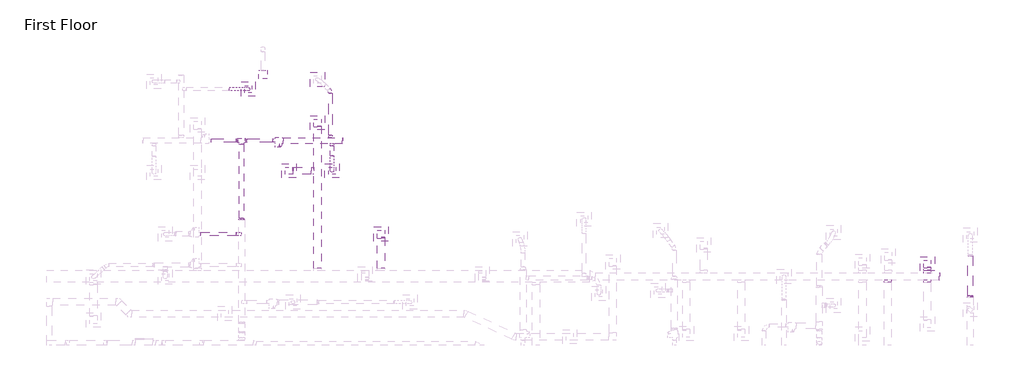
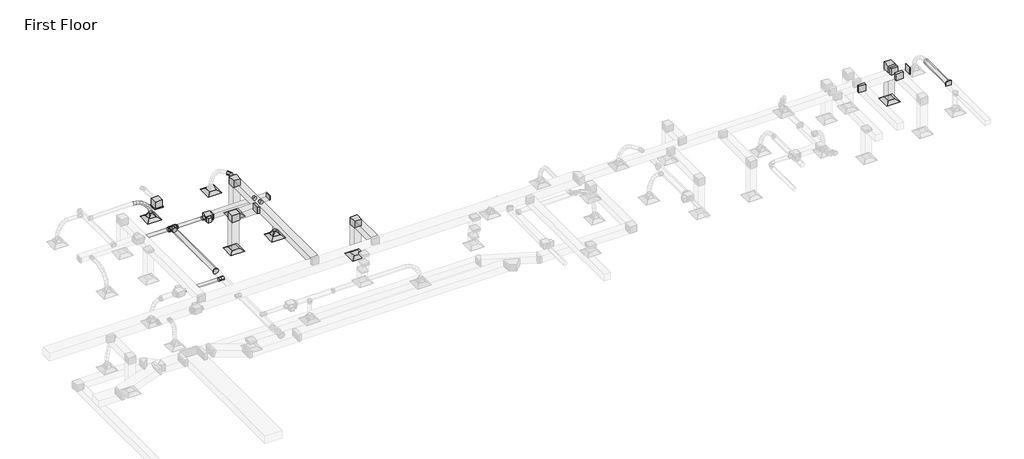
# One storey, part 58 of 61: 21 duct fittings, 18 duct segments, 7 air terminals, 2 proxies.
"""IFC4 building model written with IfcOpenShell, lengths in millimetres."""

from ifc_helpers import new_model, si_unit, point, frame, frame_2d, origin, place, context, project, spatial, polyline, circle_curve, ellipse_curve, trimmed, segment, composite_curve, outline, extrude, transform, mapped, element, save
from ifc_brep_helpers import plane_surface, cylinder_surface, advanced_brep
from components import m_exhaust_grill_er_600_x_600_face_300_x_300_connection_ff221211, proxy_47_84_lps_344db5a5, m_vav_unit_single_duct_150_mm_ffdab17b, m_rectangular_elbow_mitered_standard_8eee5933, m_rectangular_endcap_standard_ecd4e432, m_rectangular_endcap_standard_7b60dd9d, m_rectangular_takeoff_standard_c00386d1, m_rectangular_takeoff_standard_b44bfa45, m_rectangular_to_round_transition_angle_45_degree_8f201c83, m_rectangular_to_round_transition_angle_45_degree_9bcfcd89, m_round_elbow_1_5_d_fa134dda, m_round_takeoff_standard_d02f3bf7, m_round_takeoff_standard_2721f8a4, m_round_takeoff_standard_cf312e37, m_round_tee_standard_d0ec91cd, m_round_transition_angle_45_degree_6d7b59ce, m_round_transition_angle_45_degree_f1400fe6

model = new_model("IFC4")

# Units and contexts
model_context = context("Model", 3, world=origin())
ifc_project = project(units=[si_unit("LENGTHUNIT", "METRE", prefix="MILLI")], contexts=[model_context])

# Site, building, storey
site = spatial("IfcSite", under=ifc_project)
building = spatial("IfcBuilding", under=site)
storey = spatial("IfcBuildingStorey", under=building, Name="First Floor", Elevation=0.0)

# Air terminals
placement = place(None, origin())
m_exhaust_grill_er_600_x_600_face_300_x_300_connection_shape = m_exhaust_grill_er_600_x_600_face_300_x_300_connection_ff221211(model_context)
element("IfcAirTerminal", 1, ObjectType="M_Return Register : RR-600 x 600 Face 300 x 300 Connection", at=placement, inside=storey, context=model_context, shape_type="MappedRepresentation", body=[
    mapped(m_exhaust_grill_er_600_x_600_face_300_x_300_connection_shape, transform((-27752.9739655, 53630.299749, 2680.0), x_axis=(1.0, 0.0, 0.0), y_axis=(0.0, 1.0, 0.0), z_axis=(0.0, 0.0, 1.0))),
])
element("IfcAirTerminal", 2, ObjectType="M_Return Register : RR-600 x 600 Face 300 x 300 Connection", at=placement, inside=storey, context=model_context, shape_type="MappedRepresentation", body=[
    mapped(m_exhaust_grill_er_600_x_600_face_300_x_300_connection_shape, transform((-28945.9396654, 51626.5806608, 2680.0), x_axis=(1.0, 0.0, 0.0), y_axis=(0.0, 1.0, 0.0), z_axis=(0.0, 0.0, 1.0))),
])
element("IfcAirTerminal", 3, ObjectType="M_Return Register : RR-600 x 600 Face 300 x 300 Connection", at=placement, inside=storey, context=model_context, shape_type="MappedRepresentation", body=[
    mapped(m_exhaust_grill_er_600_x_600_face_300_x_300_connection_shape, transform((-2290.8234501, 47743.4589979, 2680.0), x_axis=(1.0, 0.0, 0.0), y_axis=(0.0, 1.0, 0.0), z_axis=(0.0, 0.0, 1.0))),
])
element("IfcAirTerminal", 4, ObjectType="M_Return Register : RR-600 x 600 Face 300 x 300 Connection", at=placement, inside=storey, context=model_context, shape_type="MappedRepresentation", body=[
    mapped(m_exhaust_grill_er_600_x_600_face_300_x_300_connection_shape, transform((-25098.324941, 48990.9394014, 2680.0), x_axis=(1.0, 0.0, 0.0), y_axis=(0.0, 1.0, 0.0), z_axis=(0.0, 0.0, 1.0))),
])
element("IfcAirTerminal", 5, ObjectType="M_Supply Diffuser : SD-600 x 600 Face 300 x 300 Connection", at=placement, inside=storey, context=model_context, shape_type="MappedRepresentation", body=[
    mapped(m_exhaust_grill_er_600_x_600_face_300_x_300_connection_shape, transform((-30642.6979857, 55029.321854, 2680.0), x_axis=(1.0, 0.0, 0.0), y_axis=(0.0, 1.0, 0.0), z_axis=(0.0, 0.0, 1.0))),
])
element("IfcAirTerminal", 6, ObjectType="M_Supply Diffuser : SD-600 x 600 Face 300 x 300 Connection", at=placement, inside=storey, context=model_context, shape_type="MappedRepresentation", body=[
    mapped(m_exhaust_grill_er_600_x_600_face_300_x_300_connection_shape, transform((-27752.9739655, 55437.1215859, 2680.0), x_axis=(1.0, 0.0, 0.0), y_axis=(0.0, 1.0, 0.0), z_axis=(0.0, 0.0, 1.0))),
])
element("IfcAirTerminal", 7, ObjectType="M_Supply Diffuser : SD-600 x 600 Face 300 x 300 Connection", at=placement, inside=storey, context=model_context, shape_type="MappedRepresentation", body=[
    mapped(m_exhaust_grill_er_600_x_600_face_300_x_300_connection_shape, transform((-27139.1178286, 51626.5806608, 2680.0), x_axis=(1.0, 0.0, 0.0), y_axis=(0.0, 1.0, 0.0), z_axis=(0.0, 0.0, 1.0))),
])

# Proxies
proxy_47_84_lps_shape = proxy_47_84_lps_344db5a5(model_context)
element("IfcBuildingElementProxy", 8, Name="M_Exhaust Unit with Cabinet - Round Connection - Ceiling Mounted : 47-84 LPS", ObjectType="M_Exhaust Unit with Cabinet - Round Connection - Ceiling Mounted : 47-84 LPS", at=placement, inside=storey, context=model_context, shape_type="MappedRepresentation", body=[
    mapped(proxy_47_84_lps_shape, transform((-30028.7764497, 55642.2656702, 2680.0), x_axis=(-1.0, 0.0, 0.0), y_axis=(0.0, -1.0, 0.0), z_axis=(0.0, 0.0, 1.0))),
])
m_vav_unit_single_duct_150_mm_shape = m_vav_unit_single_duct_150_mm_ffdab17b(model_context)
element("IfcBuildingElementProxy", 9, Name="M_VAV Unit - Single Duct : 150 mm", ObjectType="M_VAV Unit - Single Duct : 150 mm", at=placement, inside=storey, context=model_context, shape_type="MappedRepresentation", body=[
    mapped(m_vav_unit_single_duct_150_mm_shape, transform((-29517.7184361, 52885.394047, 3500.05), x_axis=(1.0000000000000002, 0.0, 0.0), y_axis=(0.0, 1.0000000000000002, 0.0), z_axis=(0.0, 0.0, 1.0))),
])

# Duct fittings
m_rectangular_elbow_mitered_standard_shape = m_rectangular_elbow_mitered_standard_8eee5933(model_context)
element("IfcDuctFitting", 10, ObjectType="M_Rectangular Elbow - Mitered : Standard", at=placement, inside=storey, context=model_context, shape_type="MappedRepresentation", body=[
    mapped(m_rectangular_elbow_mitered_standard_shape, transform((-28945.9396654, 51626.5806608, 4259.5), x_axis=(0.0, 0.0, 1.0), y_axis=(1.0, 0.0, 0.0), z_axis=(0.0, 1.0, 0.0))),
])
element("IfcDuctFitting", 11, ObjectType="M_Rectangular Elbow - Mitered : Standard", at=placement, inside=storey, context=model_context, shape_type="MappedRepresentation", body=[
    mapped(m_rectangular_elbow_mitered_standard_shape, transform((-2290.8234501, 47743.4589979, 4259.5), x_axis=(0.0, 0.0, 1.0), y_axis=(0.0, -1.0, 0.0), z_axis=(1.0, 0.0, 0.0))),
])
element("IfcDuctFitting", 12, ObjectType="M_Rectangular Elbow - Mitered : Standard", at=placement, inside=storey, context=model_context, shape_type="MappedRepresentation", body=[
    mapped(m_rectangular_elbow_mitered_standard_shape, transform((-27752.9739655, 53630.299749, 4259.5), x_axis=(0.0, 0.0, 1.0), y_axis=(0.0, -1.0, 0.0), z_axis=(1.0, 0.0, 0.0))),
])
element("IfcDuctFitting", 13, ObjectType="M_Rectangular Elbow - Mitered : Standard", at=placement, inside=storey, context=model_context, shape_type="MappedRepresentation", body=[
    mapped(m_rectangular_elbow_mitered_standard_shape, transform((-25098.324941, 48990.9394014, 4259.5), x_axis=(0.0, 0.0, 1.0), y_axis=(0.0, -1.0, 0.0), z_axis=(1.0, 0.0, 0.0))),
])
m_rectangular_endcap_standard_shape = m_rectangular_endcap_standard_ecd4e432(model_context)
element("IfcDuctFitting", 14, ObjectType="M_Rectangular Endcap : Standard", at=placement, inside=storey, context=model_context, shape_type="MappedRepresentation", body=[
    mapped(m_rectangular_endcap_standard_shape, transform((-26714.9184361, 52885.394047, 3619.1), x_axis=(1.0, 0.0, 0.0), y_axis=(0.0, 1.0, 0.0), z_axis=(0.0, 0.0, 1.0))),
])
m_rectangular_endcap_standard_2_shape = m_rectangular_endcap_standard_7b60dd9d(model_context)
element("IfcDuctFitting", 15, ObjectType="M_Rectangular Endcap : Standard", at=placement, inside=storey, context=model_context, shape_type="MappedRepresentation", body=[
    mapped(m_rectangular_endcap_standard_2_shape, transform((-1789.6648684, 47211.3321421, 4259.5), x_axis=(1.0, 0.0, 0.0), y_axis=(0.0, 1.0, 0.0), z_axis=(0.0, 0.0, 1.0))),
])
m_rectangular_takeoff_standard_shape = m_rectangular_takeoff_standard_c00386d1(model_context)
element("IfcDuctFitting", 16, ObjectType="M_Rectangular Takeoff : Standard", at=placement, inside=storey, context=model_context, shape_type="MappedRepresentation", body=[
    mapped(m_rectangular_takeoff_standard_shape, transform((-2290.8234501, 47361.3321421, 4259.5), x_axis=(0.0, 1.0, 0.0), y_axis=(1.0, 0.0, 0.0), z_axis=(0.0, 0.0, -1.0))),
])
m_rectangular_takeoff_standard_2_shape = m_rectangular_takeoff_standard_b44bfa45(model_context)
element("IfcDuctFitting", 17, ObjectType="M_Rectangular Takeoff : Standard", at=placement, inside=storey, context=model_context, shape_type="MappedRepresentation", body=[
    mapped(m_rectangular_takeoff_standard_2_shape, transform((-27902.9739655, 51626.5806608, 4259.5), x_axis=(-1.0, 0.0, 0.0), y_axis=(0.0, 1.0, 0.0), z_axis=(0.0, 0.0, -1.0))),
])
element("IfcDuctFitting", 18, ObjectType="M_Rectangular Takeoff : Standard", at=placement, inside=storey, context=model_context, shape_type="MappedRepresentation", body=[
    mapped(m_rectangular_takeoff_standard_2_shape, transform((-3939.6335034, 47061.3321421, 4259.5), x_axis=(0.0, -1.0, 0.0), y_axis=(-1.0, 0.0, 0.0), z_axis=(0.0, 0.0, -1.0))),
])
element("IfcDuctFitting", 19, ObjectType="M_Rectangular Takeoff : Standard", at=placement, inside=storey, context=model_context, shape_type="MappedRepresentation", body=[
    mapped(m_rectangular_takeoff_standard_2_shape, transform((-2290.8234501, 47061.3321421, 4259.5), x_axis=(0.0, -1.0, 0.0), y_axis=(1.0, 0.0, 0.0), z_axis=(0.0, 0.0, 1.0))),
])
m_rectangular_to_round_transition_angle_45_degree_shape = m_rectangular_to_round_transition_angle_45_degree_8f201c83(model_context)
element("IfcDuctFitting", 20, ObjectType="M_Rectangular to Round Transition - Angle : 45 Degree", at=placement, inside=storey, context=model_context, shape_type="MappedRepresentation", body=[
    mapped(m_rectangular_to_round_transition_angle_45_degree_shape, transform((-30642.6979857, 55029.321854, 2781.6), x_axis=(0.0, 0.0, 1.0), y_axis=(1.0, 0.0, 0.0), z_axis=(0.0, 1.0, 0.0))),
])
element("IfcDuctFitting", 21, ObjectType="M_Rectangular to Round Transition - Angle : 45 Degree", at=placement, inside=storey, context=model_context, shape_type="MappedRepresentation", body=[
    mapped(m_rectangular_to_round_transition_angle_45_degree_shape, transform((-27139.1178286, 51626.5806608, 2781.6), x_axis=(0.0, 0.0, 1.0), y_axis=(1.0, 0.0, 0.0), z_axis=(0.0, 1.0, 0.0))),
])
m_rectangular_to_round_transition_angle_45_degree_2_shape = m_rectangular_to_round_transition_angle_45_degree_9bcfcd89(model_context)
element("IfcDuctFitting", 22, ObjectType="M_Rectangular to Round Transition - Angle : 45 Degree", at=placement, inside=storey, context=model_context, shape_type="MappedRepresentation", body=[
    mapped(m_rectangular_to_round_transition_angle_45_degree_2_shape, transform((-500.5154255, 46346.4694717, 3669.1), x_axis=(0.0, 1.0, 0.0), y_axis=(-1.0, 0.0, 0.0), z_axis=(0.0, 0.0, 1.0))),
])
m_round_elbow_1_5_d_shape = m_round_elbow_1_5_d_fa134dda(model_context)
element("IfcDuctFitting", 23, ObjectType="M_Round Elbow : 1.5 D", at=placement, inside=storey, context=model_context, shape_type="MappedRepresentation", body=[
    mapped(m_round_elbow_1_5_d_shape, transform((-27210.6220598, 54954.321854, 3619.1), x_axis=(0.0, 1.0, 0.0), y_axis=(-1.0, 0.0, 0.0), z_axis=(0.0, 0.0, 1.0))),
])
m_round_takeoff_standard_shape = m_round_takeoff_standard_d02f3bf7(model_context)
element("IfcDuctFitting", 24, ObjectType="M_Round Takeoff : Standard", at=placement, inside=storey, context=model_context, shape_type="MappedRepresentation", body=[
    mapped(m_round_takeoff_standard_shape, transform((-27139.1178286, 52760.394047, 3619.1), x_axis=(0.0, -1.0, 0.0), y_axis=(-1.0, 0.0, 0.0), z_axis=(0.0, 0.0, -1.0))),
])
m_round_takeoff_standard_2_shape = m_round_takeoff_standard_2721f8a4(model_context)
element("IfcDuctFitting", 25, ObjectType="M_Round Takeoff : Standard", at=placement, inside=storey, context=model_context, shape_type="MappedRepresentation", body=[
    mapped(m_round_takeoff_standard_2_shape, transform((-27210.6220598, 53010.394047, 3619.1), x_axis=(0.0, 1.0, 0.0), y_axis=(1.0, 0.0, 0.0), z_axis=(0.0, 0.0, -1.0))),
])
m_round_takeoff_standard_3_shape = m_round_takeoff_standard_cf312e37(model_context)
element("IfcDuctFitting", 26, ObjectType="M_Round Takeoff : Standard", at=placement, inside=storey, context=model_context, shape_type="MappedRepresentation", body=[
    mapped(m_round_takeoff_standard_3_shape, transform((-31035.2411773, 48990.0894014, 3659.6016929), x_axis=(-0.999999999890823, 0.0, 1.477681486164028e-05), y_axis=(0.0, 1.0000000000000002, 0.0), z_axis=(-1.477681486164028e-05, 0.0, -0.999999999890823))),
])
m_round_tee_standard_shape = m_round_tee_standard_d0ec91cd(model_context)
element("IfcDuctFitting", 27, ObjectType="M_Round Tee : Standard", at=placement, inside=storey, context=model_context, shape_type="MappedRepresentation", body=[
    mapped(m_round_tee_standard_shape, transform((-30920.6775238, 52886.244047, 3609.6), x_axis=(0.9999999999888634, 0.0, -4.719453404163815e-06), y_axis=(0.0, 1.0, 0.0), z_axis=(4.719453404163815e-06, 0.0, 0.9999999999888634))),
])
m_round_transition_angle_45_degree_shape = m_round_transition_angle_45_degree_6d7b59ce(model_context)
element("IfcDuctFitting", 28, ObjectType="M_Round Transition - Angle : 45 Degree", at=placement, inside=storey, context=model_context, shape_type="MappedRepresentation", body=[
    mapped(m_round_transition_angle_45_degree_shape, transform((-30770.6775238, 52886.244047, 3609.5992921), x_axis=(0.9999999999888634, 0.0, -4.719453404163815e-06), y_axis=(0.0, 1.0, 0.0), z_axis=(4.719453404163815e-06, 0.0, 0.9999999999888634))),
])
element("IfcDuctFitting", 29, ObjectType="M_Round Transition - Angle : 45 Degree", at=placement, inside=storey, context=model_context, shape_type="MappedRepresentation", body=[
    mapped(m_round_transition_angle_45_degree_shape, transform((-31070.6775238, 52886.244047, 3609.6007079), x_axis=(-0.9999999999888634, 0.0, 4.719453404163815e-06), y_axis=(0.0, -1.0, 0.0), z_axis=(4.719453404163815e-06, 0.0, 0.9999999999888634))),
])
m_round_transition_angle_45_degree_2_shape = m_round_transition_angle_45_degree_f1400fe6(model_context)
element("IfcDuctFitting", 30, ObjectType="M_Round Transition - Angle : 45 Degree", at=placement, inside=storey, context=model_context, shape_type="MappedRepresentation", body=[
    mapped(m_round_transition_angle_45_degree_2_shape, transform((-30920.6775238, 49636.244047, 3609.6), x_axis=(0.0, -1.0, 0.0), y_axis=(1.0, 0.0, 0.0), z_axis=(0.0, 0.0, 1.0))),
])

# Duct segments
element("IfcDuctSegment", 31, ObjectType="Flex - Round", at=placement, inside=storey, context=model_context, shape_type="AdvancedBrep", body=[
    advanced_brep(
    [(-31432.0242908, 55104.321854, 3619.1), (-31440.0196569, 55029.321854, 3544.5273903), (-31432.0242908, 54954.321854, 3619.1), (-31424.0289247, 55029.321854, 3693.6726097), (-31299.8575118, 55104.321854, 3604.9296258), (-31314.6592539, 55029.321854, 3531.0867675), (-31299.8575118, 54954.321854, 3604.9296258), (-31285.0557698, 55029.321854, 3678.7724841), (-30642.6979857, 55104.321854, 2962.6660172), (-30568.6079963, 55029.321854, 2974.3139125), (-30642.6979857, 54954.321854, 2962.6660172), (-30716.7879752, 55029.321854, 2951.0181219), (-31164.3240999, 55104.321854, 3564.6548421), (-31191.282842, 55029.321854, 3494.4245288), (-31164.3240999, 54954.321854, 3564.6548421), (-31137.3653578, 55029.321854, 3634.8851554), (-31031.8932274, 55104.321854, 3501.6301574), (-31069.0990875, 55029.321854, 3436.276512), (-31031.8932274, 54954.321854, 3501.6301574), (-30994.6873673, 55029.321854, 3566.9838029), (-30909.0340665, 55104.321854, 3419.2100803), (-30955.6163232, 55029.321854, 3360.1465912), (-30909.0340665, 54954.321854, 3419.2100803), (-30862.4518098, 55029.321854, 3478.2735694), (-30802.2157896, 55104.321854, 3320.7491192), (-30857.9450685, 55029.321854, 3270.1170018), (-30802.2157896, 54954.321854, 3320.7491192), (-30746.4865108, 55029.321854, 3371.3812367), (-30717.907569, 55104.321854, 3209.6017827), (-30782.6319679, 55029.321854, 3170.8283385), (-30717.907569, 54954.321854, 3209.6017827), (-30653.1831701, 55029.321854, 3248.3752269), (-30662.5785769, 55104.321854, 3089.1225792), (-30735.0593291, 55029.321854, 3067.2386394), (-30662.5785769, 54954.321854, 3089.1225792), (-30590.0978248, 55029.321854, 3111.0065189)],
    [
        (0, 1, circle_curve(frame((-31432.0242908, 55029.321854, 3619.1), z_axis=(-0.9943014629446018, 0.0, 0.10660488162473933), x_axis=(0.0, 1.0, 0.0)), 75.0)),
        (1, 2, circle_curve(frame((-31432.0242908, 55029.321854, 3619.1), z_axis=(-0.9943014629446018, 0.0, 0.10660488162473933), x_axis=(0.0, 1.0, 0.0)), 75.0)),
        (2, 3, circle_curve(frame((-31432.0242908, 55029.321854, 3619.1), z_axis=(-0.9943014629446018, 0.0, 0.10660488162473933), x_axis=(0.0, 1.0, 0.0)), 75.0)),
        (3, 0, circle_curve(frame((-31432.0242908, 55029.321854, 3619.1), z_axis=(-0.9943014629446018, 0.0, 0.10660488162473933), x_axis=(0.0, 1.0, 0.0)), 75.0)),
        (0, 4),
        (4, 5, ellipse_curve(frame((-31299.8575118, 55029.321854, 3604.9296258), z_axis=(-0.980495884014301, 0.0, 0.19653961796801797), x_axis=(-0.19653961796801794, 0.0, -0.9804958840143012)), 75.3117474, 75.0)),
        (5, 1),
        (5, 6, ellipse_curve(frame((-31299.8575118, 55029.321854, 3604.9296258), z_axis=(-0.980495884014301, 0.0, 0.19653961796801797), x_axis=(-0.19653961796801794, 0.0, -0.9804958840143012)), 75.3117474, 75.0)),
        (6, 2),
        (6, 7, ellipse_curve(frame((-31299.8575118, 55029.321854, 3604.9296258), z_axis=(-0.980495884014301, 0.0, 0.19653961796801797), x_axis=(-0.19653961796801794, 0.0, -0.9804958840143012)), 75.3117474, 75.0)),
        (7, 3),
        (7, 4, ellipse_curve(frame((-31299.8575118, 55029.321854, 3604.9296258), z_axis=(-0.980495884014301, 0.0, 0.19653961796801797), x_axis=(-0.19653961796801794, 0.0, -0.9804958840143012)), 75.3117474, 75.0)),
        (8, 9, circle_curve(frame((-30642.6979857, 55029.321854, 2962.6660172), z_axis=(0.1553052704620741, 0.0, -0.9878665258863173), x_axis=(0.0, 1.0, 0.0)), 75.0)),
        (9, 10, circle_curve(frame((-30642.6979857, 55029.321854, 2962.6660172), z_axis=(0.1553052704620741, 0.0, -0.9878665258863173), x_axis=(0.0, 1.0, 0.0)), 75.0)),
        (10, 11, circle_curve(frame((-30642.6979857, 55029.321854, 2962.6660172), z_axis=(0.1553052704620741, 0.0, -0.9878665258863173), x_axis=(0.0, 1.0, 0.0)), 75.0)),
        (11, 8, circle_curve(frame((-30642.6979857, 55029.321854, 2962.6660172), z_axis=(0.1553052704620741, 0.0, -0.9878665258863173), x_axis=(0.0, 1.0, 0.0)), 75.0)),
        (4, 12),
        (12, 13, ellipse_curve(frame((-31164.3240999, 55029.321854, 3564.6548421), z_axis=(-0.9335810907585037, 0.0, 0.35836621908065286), x_axis=(-0.35836621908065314, 0.0, -0.9335810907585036)), 75.226795, 75.0)),
        (13, 5),
        (13, 14, ellipse_curve(frame((-31164.3240999, 55029.321854, 3564.6548421), z_axis=(-0.9335810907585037, 0.0, 0.35836621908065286), x_axis=(-0.35836621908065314, 0.0, -0.9335810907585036)), 75.226795, 75.0)),
        (14, 6),
        (14, 15, ellipse_curve(frame((-31164.3240999, 55029.321854, 3564.6548421), z_axis=(-0.9335810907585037, 0.0, 0.35836621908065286), x_axis=(-0.35836621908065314, 0.0, -0.9335810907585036)), 75.226795, 75.0)),
        (15, 7),
        (15, 12, ellipse_curve(frame((-31164.3240999, 55029.321854, 3564.6548421), z_axis=(-0.9335810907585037, 0.0, 0.35836621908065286), x_axis=(-0.35836621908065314, 0.0, -0.9335810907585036)), 75.226795, 75.0)),
        (12, 16),
        (16, 17, ellipse_curve(frame((-31031.8932274, 55029.321854, 3501.6301574), z_axis=(-0.8690386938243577, 0.0, 0.49474412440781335), x_axis=(-0.49474412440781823, 0.0, -0.8690386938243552)), 75.2022274, 75.0)),
        (17, 13),
        (17, 18, ellipse_curve(frame((-31031.8932274, 55029.321854, 3501.6301574), z_axis=(-0.8690386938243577, 0.0, 0.49474412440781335), x_axis=(-0.49474412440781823, 0.0, -0.8690386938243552)), 75.2022274, 75.0)),
        (18, 14),
        (18, 19, ellipse_curve(frame((-31031.8932274, 55029.321854, 3501.6301574), z_axis=(-0.8690386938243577, 0.0, 0.49474412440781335), x_axis=(-0.49474412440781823, 0.0, -0.8690386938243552)), 75.2022274, 75.0)),
        (19, 15),
        (19, 16, ellipse_curve(frame((-31031.8932274, 55029.321854, 3501.6301574), z_axis=(-0.8690386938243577, 0.0, 0.49474412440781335), x_axis=(-0.49474412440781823, 0.0, -0.8690386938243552)), 75.2022274, 75.0)),
        (16, 20),
        (20, 21, ellipse_curve(frame((-30909.0340665, 55029.321854, 3419.2100803), z_axis=(-0.7851853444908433, 0.0, 0.6192608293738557), x_axis=(-0.6192608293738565, 0.0, -0.7851853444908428)), 75.222353, 75.0)),
        (21, 17),
        (21, 22, ellipse_curve(frame((-30909.0340665, 55029.321854, 3419.2100803), z_axis=(-0.7851853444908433, 0.0, 0.6192608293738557), x_axis=(-0.6192608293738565, 0.0, -0.7851853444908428)), 75.222353, 75.0)),
        (22, 18),
        (22, 23, ellipse_curve(frame((-30909.0340665, 55029.321854, 3419.2100803), z_axis=(-0.7851853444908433, 0.0, 0.6192608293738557), x_axis=(-0.6192608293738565, 0.0, -0.7851853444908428)), 75.222353, 75.0)),
        (23, 19),
        (23, 20, ellipse_curve(frame((-30909.0340665, 55029.321854, 3419.2100803), z_axis=(-0.7851853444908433, 0.0, 0.6192608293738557), x_axis=(-0.6192608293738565, 0.0, -0.7851853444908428)), 75.222353, 75.0)),
        (20, 24),
        (24, 25, ellipse_curve(frame((-30802.2157896, 55029.321854, 3320.7491192), z_axis=(-0.6724483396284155, 0.0, 0.7401440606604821), x_axis=(-0.7401440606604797, 0.0, -0.6724483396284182)), 75.2951781, 75.0)),
        (25, 21),
        (25, 26, ellipse_curve(frame((-30802.2157896, 55029.321854, 3320.7491192), z_axis=(-0.6724483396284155, 0.0, 0.7401440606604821), x_axis=(-0.7401440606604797, 0.0, -0.6724483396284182)), 75.2951781, 75.0)),
        (26, 22),
        (26, 27, ellipse_curve(frame((-30802.2157896, 55029.321854, 3320.7491192), z_axis=(-0.6724483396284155, 0.0, 0.7401440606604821), x_axis=(-0.7401440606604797, 0.0, -0.6724483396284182)), 75.2951781, 75.0)),
        (27, 23),
        (27, 24, ellipse_curve(frame((-30802.2157896, 55029.321854, 3320.7491192), z_axis=(-0.6724483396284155, 0.0, 0.7401440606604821), x_axis=(-0.7401440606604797, 0.0, -0.6724483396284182)), 75.2951781, 75.0)),
        (24, 28),
        (28, 29, ellipse_curve(frame((-30717.907569, 55029.321854, 3209.6017827), z_axis=(-0.5138992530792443, 0.0, 0.8578505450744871), x_axis=(-0.8578505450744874, 0.0, -0.5138992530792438)), 75.4495049, 75.0)),
        (29, 25),
        (29, 30, ellipse_curve(frame((-30717.907569, 55029.321854, 3209.6017827), z_axis=(-0.5138992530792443, 0.0, 0.8578505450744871), x_axis=(-0.8578505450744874, 0.0, -0.5138992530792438)), 75.4495049, 75.0)),
        (30, 26),
        (30, 31, ellipse_curve(frame((-30717.907569, 55029.321854, 3209.6017827), z_axis=(-0.5138992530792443, 0.0, 0.8578505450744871), x_axis=(-0.8578505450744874, 0.0, -0.5138992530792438)), 75.4495049, 75.0)),
        (31, 27),
        (31, 28, ellipse_curve(frame((-30717.907569, 55029.321854, 3209.6017827), z_axis=(-0.5138992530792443, 0.0, 0.8578505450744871), x_axis=(-0.8578505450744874, 0.0, -0.5138992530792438)), 75.4495049, 75.0)),
        (28, 32),
        (32, 33, ellipse_curve(frame((-30662.5785769, 55029.321854, 3089.1225792), z_axis=(-0.2890403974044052, 0.0, 0.9573169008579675), x_axis=(-0.9573169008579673, 0.0, -0.28904039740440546)), 75.7123917, 75.0)),
        (33, 29),
        (33, 34, ellipse_curve(frame((-30662.5785769, 55029.321854, 3089.1225792), z_axis=(-0.2890403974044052, 0.0, 0.9573169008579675), x_axis=(-0.9573169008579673, 0.0, -0.28904039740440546)), 75.7123917, 75.0)),
        (34, 30),
        (34, 35, ellipse_curve(frame((-30662.5785769, 55029.321854, 3089.1225792), z_axis=(-0.2890403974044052, 0.0, 0.9573169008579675), x_axis=(-0.9573169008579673, 0.0, -0.28904039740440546)), 75.7123917, 75.0)),
        (35, 31),
        (35, 32, ellipse_curve(frame((-30662.5785769, 55029.321854, 3089.1225792), z_axis=(-0.2890403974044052, 0.0, 0.9573169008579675), x_axis=(-0.9573169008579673, 0.0, -0.28904039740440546)), 75.7123917, 75.0)),
        (32, 8),
        (11, 33),
        (10, 34),
        (9, 35),
    ],
    [
        plane_surface(frame((-31432.0242908, 55104.321854, 3619.1), z_axis=(-0.9943014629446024, 0.0, 0.1066048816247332), x_axis=(0.1066048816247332, 0.0, 0.9943014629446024))),
        cylinder_surface(frame((-31432.0242908, 55029.321854, 3619.1), z_axis=(-0.9943014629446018, 0.0, 0.10660488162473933), x_axis=(0.0, 1.0, 0.0)), 75.0),
        plane_surface(frame((-30642.6979857, 55104.321854, 2962.6660172), z_axis=(0.1553052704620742, 0.0, -0.9878665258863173), x_axis=(0.9878665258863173, 0.0, 0.1553052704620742))),
        cylinder_surface(frame((-31299.8575118, 55029.321854, 3604.9296258), z_axis=(-0.9585729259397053, 0.0, 0.28484723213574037), x_axis=(0.0, 1.0, 0.0)), 75.0),
        cylinder_surface(frame((-31164.3240999, 55029.321854, 3564.6548421), z_axis=(-0.9029601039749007, 0.0, 0.4297243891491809), x_axis=(0.0, 1.0, 0.0)), 75.0),
        cylinder_surface(frame((-31031.8932274, 55029.321854, 3501.6301574), z_axis=(-0.8304433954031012, 0.0, 0.557103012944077), x_axis=(0.0, 1.0, 0.0)), 75.0),
        cylinder_surface(frame((-30909.0340665, 55029.321854, 3419.2100803), z_axis=(-0.7352853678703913, 0.0, 0.6777576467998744), x_axis=(0.0, 1.0, 0.0)), 75.0),
        cylinder_surface(frame((-30802.2157896, 55029.321854, 3320.7491192), z_axis=(-0.6043389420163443, 0.0, 0.7967273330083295), x_axis=(0.0, 1.0, 0.0)), 75.0),
        cylinder_surface(frame((-30717.907569, 55029.321854, 3209.6017827), z_axis=(-0.4173362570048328, 0.0, 0.9087521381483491), x_axis=(0.0, 1.0, 0.0)), 75.0),
        cylinder_surface(frame((-30662.5785769, 55029.321854, 3089.1225792), z_axis=(-0.1553052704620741, 0.0, 0.9878665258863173), x_axis=(0.0, 1.0, 0.0)), 75.0),
    ],
    [
        (0, [[1, 2, 3, 4]]),
        (1, [[-1, 5, 6, 7]]),
        (1, [[-2, -7, 8, 9]]),
        (1, [[-3, -9, 10, 11]]),
        (1, [[-4, -11, 12, -5]]),
        (2, [[13, 14, 15, 16]]),
        (3, [[-6, 17, 18, 19]]),
        (3, [[-8, -19, 20, 21]]),
        (3, [[-10, -21, 22, 23]]),
        (3, [[-12, -23, 24, -17]]),
        (4, [[-18, 25, 26, 27]]),
        (4, [[-20, -27, 28, 29]]),
        (4, [[-22, -29, 30, 31]]),
        (4, [[-24, -31, 32, -25]]),
        (5, [[-26, 33, 34, 35]]),
        (5, [[-28, -35, 36, 37]]),
        (5, [[-30, -37, 38, 39]]),
        (5, [[-32, -39, 40, -33]]),
        (6, [[-34, 41, 42, 43]]),
        (6, [[-36, -43, 44, 45]]),
        (6, [[-38, -45, 46, 47]]),
        (6, [[-40, -47, 48, -41]]),
        (7, [[-42, 49, 50, 51]]),
        (7, [[-44, -51, 52, 53]]),
        (7, [[-46, -53, 54, 55]]),
        (7, [[-48, -55, 56, -49]]),
        (8, [[-50, 57, 58, 59]]),
        (8, [[-52, -59, 60, 61]]),
        (8, [[-54, -61, 62, 63]]),
        (8, [[-56, -63, 64, -57]]),
        (9, [[-58, 65, -16, 66]]),
        (9, [[-60, -66, -15, 67]]),
        (9, [[-62, -67, -14, 68]]),
        (9, [[-64, -68, -13, -65]]),
    ],
),
])
element("IfcDuctSegment", 32, ObjectType="Flex - Round", at=placement, inside=storey, context=model_context, shape_type="AdvancedBrep", body=[
    advanced_brep(
    [(-27064.1178286, 52247.094047, 3619.1), (-27139.1178286, 52258.883239, 3545.0323623), (-27214.1178286, 52247.094047, 3619.1), (-27139.1178286, 52235.3048549, 3693.1676377), (-27064.1178286, 52117.9150794, 3598.538852), (-27139.1178286, 52139.6826715, 3526.0594556), (-27214.1178286, 52117.9150794, 3598.538852), (-27139.1178286, 52096.1474873, 3671.0182485), (-27064.1178286, 51626.5806608, 2962.6660172), (-27139.1178286, 51552.3212692, 2973.1799491), (-27214.1178286, 51626.5806608, 2962.6660172), (-27139.1178286, 51700.8400523, 2952.1520853), (-27064.1178286, 51992.4011132, 3541.6317655), (-27139.1178286, 52030.6742336, 3476.6358512), (-27214.1178286, 51992.4011132, 3541.6317655), (-27139.1178286, 51954.1279928, 3606.6276798), (-27064.1178286, 51876.4599871, 3455.5432766), (-27139.1178286, 51926.7066487, 3399.4379441), (-27214.1178286, 51876.4599871, 3455.5432766), (-27139.1178286, 51826.2133255, 3511.648609), (-27064.1178286, 51775.99954, 3347.4379212), (-27139.1178286, 51835.4765119, 3301.2653135), (-27214.1178286, 51775.99954, 3347.4379212), (-27139.1178286, 51716.5225682, 3393.6105289), (-27064.1178286, 51696.9276108, 3224.4802354), (-27139.1178286, 51763.9605736, 3190.0572736), (-27214.1178286, 51696.9276108, 3224.4802354), (-27139.1178286, 51629.8946479, 3258.9031973), (-27064.1178286, 51645.1520381, 3093.8347554), (-27139.1178286, 51718.1614302, 3074.492138), (-27214.1178286, 51645.1520381, 3093.8347554), (-27139.1178286, 51572.1426459, 3113.1773729)],
    [
        (0, 1, circle_curve(frame((-27139.1178286, 52247.094047, 3619.1), z_axis=(0.0, 0.9875685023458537, 0.15718922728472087), x_axis=(1.0, 0.0, 0.0)), 75.0)),
        (1, 2, circle_curve(frame((-27139.1178286, 52247.094047, 3619.1), z_axis=(0.0, 0.9875685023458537, 0.15718922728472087), x_axis=(1.0, 0.0, 0.0)), 75.0)),
        (2, 3, circle_curve(frame((-27139.1178286, 52247.094047, 3619.1), z_axis=(0.0, 0.9875685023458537, 0.15718922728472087), x_axis=(1.0, 0.0, 0.0)), 75.0)),
        (3, 0, circle_curve(frame((-27139.1178286, 52247.094047, 3619.1), z_axis=(0.0, 0.9875685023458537, 0.15718922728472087), x_axis=(1.0, 0.0, 0.0)), 75.0)),
        (0, 4),
        (4, 5, ellipse_curve(frame((-27139.1178286, 52117.9150794, 3598.538852), z_axis=(0.0, 0.9577397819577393, 0.2876360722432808), x_axis=(0.0, 0.2876360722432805, -0.9577397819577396)), 75.6775461, 75.0)),
        (5, 1),
        (5, 6, ellipse_curve(frame((-27139.1178286, 52117.9150794, 3598.538852), z_axis=(0.0, 0.9577397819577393, 0.2876360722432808), x_axis=(0.0, 0.2876360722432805, -0.9577397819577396)), 75.6775461, 75.0)),
        (6, 2),
        (6, 7, ellipse_curve(frame((-27139.1178286, 52117.9150794, 3598.538852), z_axis=(0.0, 0.9577397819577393, 0.2876360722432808), x_axis=(0.0, 0.2876360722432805, -0.9577397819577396)), 75.6775461, 75.0)),
        (7, 3),
        (7, 4, ellipse_curve(frame((-27139.1178286, 52117.9150794, 3598.538852), z_axis=(0.0, 0.9577397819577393, 0.2876360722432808), x_axis=(0.0, 0.2876360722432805, -0.9577397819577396)), 75.6775461, 75.0)),
        (8, 9, circle_curve(frame((-27139.1178286, 51626.5806608, 2962.6660172), z_axis=(0.0, -0.14018575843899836, -0.9901252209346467), x_axis=(1.0, 0.0, 0.0)), 75.0)),
        (9, 10, circle_curve(frame((-27139.1178286, 51626.5806608, 2962.6660172), z_axis=(0.0, -0.14018575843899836, -0.9901252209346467), x_axis=(1.0, 0.0, 0.0)), 75.0)),
        (10, 11, circle_curve(frame((-27139.1178286, 51626.5806608, 2962.6660172), z_axis=(0.0, -0.14018575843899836, -0.9901252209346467), x_axis=(1.0, 0.0, 0.0)), 75.0)),
        (11, 8, circle_curve(frame((-27139.1178286, 51626.5806608, 2962.6660172), z_axis=(0.0, -0.14018575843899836, -0.9901252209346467), x_axis=(1.0, 0.0, 0.0)), 75.0)),
        (4, 12),
        (12, 13, ellipse_curve(frame((-27139.1178286, 51992.4011132, 3541.6317655), z_axis=(0.0, 0.8617010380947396, 0.5074163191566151), x_axis=(0.0, 0.5074163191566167, -0.8617010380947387)), 75.4274527, 75.0)),
        (13, 5),
        (13, 14, ellipse_curve(frame((-27139.1178286, 51992.4011132, 3541.6317655), z_axis=(0.0, 0.8617010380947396, 0.5074163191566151), x_axis=(0.0, 0.5074163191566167, -0.8617010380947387)), 75.4274527, 75.0)),
        (14, 6),
        (14, 15, ellipse_curve(frame((-27139.1178286, 51992.4011132, 3541.6317655), z_axis=(0.0, 0.8617010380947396, 0.5074163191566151), x_axis=(0.0, 0.5074163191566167, -0.8617010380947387)), 75.4274527, 75.0)),
        (15, 7),
        (15, 12, ellipse_curve(frame((-27139.1178286, 51992.4011132, 3541.6317655), z_axis=(0.0, 0.8617010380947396, 0.5074163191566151), x_axis=(0.0, 0.5074163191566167, -0.8617010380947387)), 75.4274527, 75.0)),
        (12, 16),
        (16, 17, ellipse_curve(frame((-27139.1178286, 51876.4599871, 3455.5432766), z_axis=(0.0, 0.7449301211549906, 0.6671424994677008), x_axis=(0.0, 0.6671424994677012, -0.7449301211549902)), 75.3162355, 75.0)),
        (17, 13),
        (17, 18, ellipse_curve(frame((-27139.1178286, 51876.4599871, 3455.5432766), z_axis=(0.0, 0.7449301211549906, 0.6671424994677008), x_axis=(0.0, 0.6671424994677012, -0.7449301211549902)), 75.3162355, 75.0)),
        (18, 14),
        (18, 19, ellipse_curve(frame((-27139.1178286, 51876.4599871, 3455.5432766), z_axis=(0.0, 0.7449301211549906, 0.6671424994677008), x_axis=(0.0, 0.6671424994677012, -0.7449301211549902)), 75.3162355, 75.0)),
        (19, 15),
        (19, 16, ellipse_curve(frame((-27139.1178286, 51876.4599871, 3455.5432766), z_axis=(0.0, 0.7449301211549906, 0.6671424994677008), x_axis=(0.0, 0.6671424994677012, -0.7449301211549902)), 75.3162355, 75.0)),
        (16, 20),
        (20, 21, ellipse_curve(frame((-27139.1178286, 51775.99954, 3347.4379212), z_axis=(0.0, 0.6132182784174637, 0.7899135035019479), x_axis=(0.0, 0.7899135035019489, -0.6132182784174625)), 75.2955502, 75.0)),
        (21, 17),
        (21, 22, ellipse_curve(frame((-27139.1178286, 51775.99954, 3347.4379212), z_axis=(0.0, 0.6132182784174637, 0.7899135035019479), x_axis=(0.0, 0.7899135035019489, -0.6132182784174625)), 75.2955502, 75.0)),
        (22, 18),
        (22, 23, ellipse_curve(frame((-27139.1178286, 51775.99954, 3347.4379212), z_axis=(0.0, 0.6132182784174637, 0.7899135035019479), x_axis=(0.0, 0.7899135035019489, -0.6132182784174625)), 75.2955502, 75.0)),
        (23, 19),
        (23, 20, ellipse_curve(frame((-27139.1178286, 51775.99954, 3347.4379212), z_axis=(0.0, 0.6132182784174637, 0.7899135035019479), x_axis=(0.0, 0.7899135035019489, -0.6132182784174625)), 75.2955502, 75.0)),
        (20, 24),
        (24, 25, ellipse_curve(frame((-27139.1178286, 51696.9276108, 3224.4802354), z_axis=(0.0, 0.45681129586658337, 0.8895636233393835), x_axis=(0.0, 0.8895636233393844, -0.45681129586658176)), 75.3548831, 75.0)),
        (25, 21),
        (25, 26, ellipse_curve(frame((-27139.1178286, 51696.9276108, 3224.4802354), z_axis=(0.0, 0.45681129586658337, 0.8895636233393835), x_axis=(0.0, 0.8895636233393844, -0.45681129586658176)), 75.3548831, 75.0)),
        (26, 22),
        (26, 27, ellipse_curve(frame((-27139.1178286, 51696.9276108, 3224.4802354), z_axis=(0.0, 0.45681129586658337, 0.8895636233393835), x_axis=(0.0, 0.8895636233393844, -0.45681129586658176)), 75.3548831, 75.0)),
        (27, 23),
        (27, 24, ellipse_curve(frame((-27139.1178286, 51696.9276108, 3224.4802354), z_axis=(0.0, 0.45681129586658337, 0.8895636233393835), x_axis=(0.0, 0.8895636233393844, -0.45681129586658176)), 75.3548831, 75.0)),
        (24, 28),
        (28, 29, ellipse_curve(frame((-27139.1178286, 51645.1520381, 3093.8347554), z_axis=(0.0, 0.25609797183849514, 0.9666508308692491), x_axis=(0.0, 0.9666508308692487, -0.2560979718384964)), 75.5281947, 75.0)),
        (29, 25),
        (29, 30, ellipse_curve(frame((-27139.1178286, 51645.1520381, 3093.8347554), z_axis=(0.0, 0.25609797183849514, 0.9666508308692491), x_axis=(0.0, 0.9666508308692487, -0.2560979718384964)), 75.5281947, 75.0)),
        (30, 26),
        (30, 31, ellipse_curve(frame((-27139.1178286, 51645.1520381, 3093.8347554), z_axis=(0.0, 0.25609797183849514, 0.9666508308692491), x_axis=(0.0, 0.9666508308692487, -0.2560979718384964)), 75.5281947, 75.0)),
        (31, 27),
        (31, 28, ellipse_curve(frame((-27139.1178286, 51645.1520381, 3093.8347554), z_axis=(0.0, 0.25609797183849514, 0.9666508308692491), x_axis=(0.0, 0.9666508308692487, -0.2560979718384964)), 75.5281947, 75.0)),
        (28, 8),
        (11, 29),
        (10, 30),
        (9, 31),
    ],
    [
        plane_surface(frame((-27139.1178286, 52258.883239, 3545.0323623), z_axis=(0.0, 0.987568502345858, 0.15718922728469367), x_axis=(1.0, 0.0, 0.0))),
        cylinder_surface(frame((-27139.1178286, 52247.094047, 3619.1), z_axis=(0.0, 0.9875685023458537, 0.15718922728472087), x_axis=(1.0, 0.0, 0.0)), 75.0),
        plane_surface(frame((-27139.1178286, 51700.8400523, 2952.1520853), z_axis=(0.0, -0.14018575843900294, -0.990125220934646), x_axis=(1.0, 0.0, 0.0))),
        cylinder_surface(frame((-27139.1178286, 52117.9150794, 3598.538852), z_axis=(0.0, 0.9107616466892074, 0.41293246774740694), x_axis=(1.0, 0.0, 0.0)), 75.0),
        cylinder_surface(frame((-27139.1178286, 51992.4011132, 3541.6317655), z_axis=(0.0, 0.8028737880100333, 0.5961490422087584), x_axis=(1.0, 0.0, 0.0)), 75.0),
        cylinder_surface(frame((-27139.1178286, 51876.4599871, 3455.5432766), z_axis=(0.0, 0.6807308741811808, 0.7325336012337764), x_axis=(1.0, 0.0, 0.0)), 75.0),
        cylinder_surface(frame((-27139.1178286, 51775.99954, 3347.4379212), z_axis=(0.0, 0.5408916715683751, 0.8410922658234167), x_axis=(1.0, 0.0, 0.0)), 75.0),
        cylinder_surface(frame((-27139.1178286, 51696.9276108, 3224.4802354), z_axis=(0.0, 0.3684282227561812, 0.9296561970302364), x_axis=(1.0, 0.0, 0.0)), 75.0),
        cylinder_surface(frame((-27139.1178286, 51645.1520381, 3093.8347554), z_axis=(0.0, 0.14018575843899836, 0.9901252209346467), x_axis=(1.0, 0.0, 0.0)), 75.0),
    ],
    [
        (0, [[1, 2, 3, 4]]),
        (1, [[-1, 5, 6, 7]]),
        (1, [[-2, -7, 8, 9]]),
        (1, [[-3, -9, 10, 11]]),
        (1, [[-4, -11, 12, -5]]),
        (2, [[13, 14, 15, 16]]),
        (3, [[-6, 17, 18, 19]]),
        (3, [[-8, -19, 20, 21]]),
        (3, [[-10, -21, 22, 23]]),
        (3, [[-12, -23, 24, -17]]),
        (4, [[-18, 25, 26, 27]]),
        (4, [[-20, -27, 28, 29]]),
        (4, [[-22, -29, 30, 31]]),
        (4, [[-24, -31, 32, -25]]),
        (5, [[-26, 33, 34, 35]]),
        (5, [[-28, -35, 36, 37]]),
        (5, [[-30, -37, 38, 39]]),
        (5, [[-32, -39, 40, -33]]),
        (6, [[-34, 41, 42, 43]]),
        (6, [[-36, -43, 44, 45]]),
        (6, [[-38, -45, 46, 47]]),
        (6, [[-40, -47, 48, -41]]),
        (7, [[-42, 49, 50, 51]]),
        (7, [[-44, -51, 52, 53]]),
        (7, [[-46, -53, 54, 55]]),
        (7, [[-48, -55, 56, -49]]),
        (8, [[-50, 57, -16, 58]]),
        (8, [[-52, -58, -15, 59]]),
        (8, [[-54, -59, -14, 60]]),
        (8, [[-56, -60, -13, -57]]),
    ],
),
])
element("IfcDuctSegment", 33, ObjectType="Mitered Elbows / Taps", at=placement, inside=storey, context=model_context, shape_type="SweptSolid", body=[
    extrude(outline(polyline([(-27902.9739655, 53455.299749), (-27602.9739655, 53455.299749), (-27602.9739655, 47561.3321421), (-27902.9739655, 47561.3321421), (-27902.9739655, 53455.299749)])), frame((0.0, 0.0, 4109.5), z_axis=(0.0, 0.0, 1.0), x_axis=(1.0, 0.0, 0.0)), (0.0, 0.0, 1.0), 300.0),
])
element("IfcDuctSegment", 34, ObjectType="Mitered Elbows / Taps", at=placement, inside=storey, context=model_context, shape_type="SweptSolid", body=[
    extrude(outline(polyline([(-27602.9739655, 53480.299749), (-27902.9739655, 53480.299749), (-27902.9739655, 53780.299749), (-27602.9739655, 53780.299749), (-27602.9739655, 53480.299749)])), frame((0.0, 0.0, 2781.6), z_axis=(0.0, 0.0, 1.0), x_axis=(1.0, 0.0, 0.0)), (0.0, 0.0, 1.0), 1302.9),
])
element("IfcDuctSegment", 35, ObjectType="Mitered Elbows / Taps", at=placement, inside=storey, context=model_context, shape_type="SweptSolid", body=[
    extrude(outline(polyline([(-28770.9396654, 51476.5806608), (-28770.9396654, 51776.5806608), (-28002.9739655, 51776.5806608), (-28002.9739655, 51476.5806608), (-28770.9396654, 51476.5806608)])), frame((0.0, 0.0, 4109.5), z_axis=(0.0, 0.0, 1.0), x_axis=(1.0, 0.0, 0.0)), (0.0, 0.0, 1.0), 300.0),
])
element("IfcDuctSegment", 36, ObjectType="Mitered Elbows / Taps", at=placement, inside=storey, context=model_context, shape_type="SweptSolid", body=[
    extrude(outline(polyline([(-28795.9396654, 51776.5806608), (-28795.9396654, 51476.5806608), (-29095.9396654, 51476.5806608), (-29095.9396654, 51776.5806608), (-28795.9396654, 51776.5806608)])), frame((0.0, 0.0, 2781.6), z_axis=(0.0, 0.0, 1.0), x_axis=(1.0, 0.0, 0.0)), (0.0, 0.0, 1.0), 1302.9),
])
element("IfcDuctSegment", 37, ObjectType="Mitered Elbows / Taps", at=placement, inside=storey, context=model_context, shape_type="SweptSolid", body=[
    extrude(outline(polyline([(-2440.8234501, 47568.4589979), (-2140.8234501, 47568.4589979), (-2140.8234501, 47461.3321421), (-2440.8234501, 47461.3321421), (-2440.8234501, 47568.4589979)])), frame((0.0, 0.0, 4109.5), z_axis=(0.0, 0.0, 1.0), x_axis=(1.0, 0.0, 0.0)), (0.0, 0.0, 1.0), 300.0),
])
element("IfcDuctSegment", 38, ObjectType="Mitered Elbows / Taps", at=placement, inside=storey, context=model_context, shape_type="SweptSolid", body=[
    extrude(outline(polyline([(-2140.8234501, 47593.4589979), (-2440.8234501, 47593.4589979), (-2440.8234501, 47893.4589979), (-2140.8234501, 47893.4589979), (-2140.8234501, 47593.4589979)])), frame((0.0, 0.0, 2781.6), z_axis=(0.0, 0.0, 1.0), x_axis=(1.0, 0.0, 0.0)), (0.0, 0.0, 1.0), 1302.9),
])
element("IfcDuctSegment", 39, ObjectType="Mitered Elbows / Taps", at=placement, inside=storey, context=model_context, shape_type="SweptSolid", body=[
    extrude(outline(polyline([(-25248.324941, 48815.9394014), (-24948.324941, 48815.9394014), (-24948.324941, 47561.3321421), (-25248.324941, 47561.3321421), (-25248.324941, 48815.9394014)])), frame((0.0, 0.0, 4109.5), z_axis=(0.0, 0.0, 1.0), x_axis=(1.0, 0.0, 0.0)), (0.0, 0.0, 1.0), 300.0),
])
element("IfcDuctSegment", 40, ObjectType="Mitered Elbows / Taps", at=placement, inside=storey, context=model_context, shape_type="SweptSolid", body=[
    extrude(outline(polyline([(-24948.324941, 48840.9394014), (-25248.324941, 48840.9394014), (-25248.324941, 49140.9394014), (-24948.324941, 49140.9394014), (-24948.324941, 48840.9394014)])), frame((0.0, 0.0, 2781.6), z_axis=(0.0, 0.0, 1.0), x_axis=(1.0, 0.0, 0.0)), (0.0, 0.0, 1.0), 1302.9),
])
element("IfcDuctSegment", 41, ObjectType="Radius Elbows / Tees", at=placement, inside=storey, context=model_context, shape_type="SweptSolid", body=[
    extrude(outline(polyline([(-29174.9184361, 52760.394047), (-29174.9184361, 53010.394047), (-26714.9184361, 53010.394047), (-26714.9184361, 52760.394047), (-29174.9184361, 52760.394047)])), frame((0.0, 0.0, 3519.1), z_axis=(0.0, 0.0, 1.0), x_axis=(1.0, 0.0, 0.0)), (0.0, 0.0, 1.0), 200.0),
])
element("IfcDuctSegment", 42, ObjectType="Taps", at=placement, inside=storey, context=model_context, shape_type="SweptSolid", body=[
    extrude(outline(composite_curve([segment(trimmed(circle_curve(frame_2d((3619.1, -27210.6220598)), 75.0), [point((3619.1, -27135.6220598))], [point((3694.1, -27210.6220598))], False, "CARTESIAN"), True, "CONTINUOUS"), segment(trimmed(circle_curve(frame_2d((3619.1, -27210.6220598)), 75.0), [point((3694.1, -27210.6220598))], [point((3619.1, -27285.6220598))], False, "CARTESIAN"), True, "CONTINUOUS"), segment(trimmed(circle_curve(frame_2d((3619.1, -27210.6220598)), 75.0), [point((3619.1, -27285.6220598))], [point((3544.1, -27210.6220598))], False, "CARTESIAN"), True, "CONTINUOUS"), segment(trimmed(circle_curve(frame_2d((3619.1, -27210.6220598)), 75.0), [point((3544.1, -27210.6220598))], [point((3619.1, -27135.6220598))], False, "CARTESIAN"), True, "CONTINUOUS")], self_intersect=False)), frame((0.0, 53110.394047, 0.0), z_axis=(0.0, 1.0, 0.0), x_axis=(0.0, 0.0, 1.0)), (0.0, 0.0, 1.0), 1750.7297555),
])
element("IfcDuctSegment", 43, ObjectType="Taps", at=placement, inside=storey, context=model_context, shape_type="SweptSolid", body=[
    extrude(outline(composite_curve([segment(trimmed(circle_curve(frame_2d((3619.1, -27139.1178286)), 75.0), [point((3619.1, -27214.1178286))], [point((3544.1, -27139.1178286))], False, "CARTESIAN"), True, "CONTINUOUS"), segment(trimmed(circle_curve(frame_2d((3619.1, -27139.1178286)), 75.0), [point((3544.1, -27139.1178286))], [point((3619.1, -27064.1178286))], False, "CARTESIAN"), True, "CONTINUOUS"), segment(trimmed(circle_curve(frame_2d((3619.1, -27139.1178286)), 75.0), [point((3619.1, -27064.1178286))], [point((3694.1, -27139.1178286))], False, "CARTESIAN"), True, "CONTINUOUS"), segment(trimmed(circle_curve(frame_2d((3619.1, -27139.1178286)), 75.0), [point((3694.1, -27139.1178286))], [point((3619.1, -27214.1178286))], False, "CARTESIAN"), True, "CONTINUOUS")], self_intersect=False)), frame((0.0, 52247.094047, 0.0), z_axis=(0.0, 1.0, 0.0), x_axis=(0.0, 0.0, 1.0)), (0.0, 0.0, 1.0), 413.3),
])
element("IfcDuctSegment", 44, ObjectType="Taps", at=placement, inside=storey, context=model_context, shape_type="SweptSolid", body=[
    extrude(outline(composite_curve([segment(trimmed(circle_curve(frame_2d((3669.1, -500.5154255)), 100.0), [point((3669.1, -400.5154255))], [point((3769.1, -500.5154255))], False, "CARTESIAN"), True, "CONTINUOUS"), segment(trimmed(circle_curve(frame_2d((3669.1, -500.5154255)), 100.0), [point((3769.1, -500.5154255))], [point((3669.1, -600.5154255))], False, "CARTESIAN"), True, "CONTINUOUS"), segment(trimmed(circle_curve(frame_2d((3669.1, -500.5154255)), 100.0), [point((3669.1, -600.5154255))], [point((3569.1, -500.5154255))], False, "CARTESIAN"), True, "CONTINUOUS"), segment(trimmed(circle_curve(frame_2d((3669.1, -500.5154255)), 100.0), [point((3569.1, -500.5154255))], [point((3669.1, -400.5154255))], False, "CARTESIAN"), True, "CONTINUOUS")], self_intersect=False)), frame((0.0, 46406.8248108, 0.0), z_axis=(0.0, 1.0, 0.0), x_axis=(0.0, 0.0, 1.0)), (0.0, 0.0, 1.0), 1662.3927734),
])
element("IfcDuctSegment", 45, ObjectType="Taps", at=placement, inside=storey, context=model_context, shape_type="SweptSolid", body=[
    extrude(outline(composite_curve([segment(trimmed(circle_curve(frame_2d((3609.6, -30920.6775238)), 100.0), [point((3609.6, -31020.6775238))], [point((3509.6, -30920.6775238))], False, "CARTESIAN"), True, "CONTINUOUS"), segment(trimmed(circle_curve(frame_2d((3609.6, -30920.6775238)), 100.0), [point((3509.6, -30920.6775238))], [point((3609.6, -30820.6775238))], False, "CARTESIAN"), True, "CONTINUOUS"), segment(trimmed(circle_curve(frame_2d((3609.6, -30920.6775238)), 100.0), [point((3609.6, -30820.6775238))], [point((3709.6, -30920.6775238))], False, "CARTESIAN"), True, "CONTINUOUS"), segment(trimmed(circle_curve(frame_2d((3609.6, -30920.6775238)), 100.0), [point((3709.6, -30920.6775238))], [point((3609.6, -31020.6775238))], False, "CARTESIAN"), True, "CONTINUOUS")], self_intersect=False)), frame((0.0, 49636.244047, 0.0), z_axis=(0.0, 1.0, 0.0), x_axis=(0.0, 0.0, 1.0)), (0.0, 0.0, 1.0), 3100.0),
])
element("IfcDuctSegment", 46, ObjectType="Taps", at=placement, inside=storey, context=model_context, shape_type="SweptSolid", body=[
    extrude(outline(composite_curve([segment(trimmed(circle_curve(frame_2d((0.0, -75.0)), 75.0), [point((-75.0, -75.0))], [point((0.0, 0.0))], False, "CARTESIAN"), True, "CONTINUOUS"), segment(trimmed(circle_curve(frame_2d((0.0, -75.0)), 75.0), [point((0.0, 0.0))], [point((75.0, -75.0))], False, "CARTESIAN"), True, "CONTINUOUS"), segment(trimmed(circle_curve(frame_2d((0.0, -75.0)), 75.0), [point((75.0, -75.0))], [point((0.0, -150.0))], False, "CARTESIAN"), True, "CONTINUOUS"), segment(trimmed(circle_curve(frame_2d((0.0, -75.0)), 75.0), [point((0.0, -150.0))], [point((-75.0, -75.0))], False, "CARTESIAN"), True, "CONTINUOUS")], self_intersect=False)), frame((-29619.3200865, 52886.244047, 3534.575), z_axis=(-0.9999999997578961, 0.0, 2.200472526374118e-05), x_axis=(0.0, 1.0, 0.0)), (0.0, 0.0, 1.0), 1091.0037488),
])
element("IfcDuctSegment", 47, ObjectType="Taps", at=placement, inside=storey, context=model_context, shape_type="SweptSolid", body=[
    extrude(outline(composite_curve([segment(trimmed(circle_curve(frame_2d((0.0, -75.0)), 75.0), [point((-75.0, -75.0))], [point((0.0, 0.0))], False, "CARTESIAN"), True, "CONTINUOUS"), segment(trimmed(circle_curve(frame_2d((0.0, -75.0)), 75.0), [point((0.0, 0.0))], [point((75.0, -75.0))], False, "CARTESIAN"), True, "CONTINUOUS"), segment(trimmed(circle_curve(frame_2d((0.0, -75.0)), 75.0), [point((75.0, -75.0))], [point((0.0, -150.0))], False, "CARTESIAN"), True, "CONTINUOUS"), segment(trimmed(circle_curve(frame_2d((0.0, -75.0)), 75.0), [point((0.0, -150.0))], [point((-75.0, -75.0))], False, "CARTESIAN"), True, "CONTINUOUS")], self_intersect=False)), frame((-32180.6756665, 52886.244047, 3534.575), z_axis=(0.9999999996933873, 0.0, 2.4763391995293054e-05), x_axis=(0.0, -1.0, 0.0)), (0.0, 0.0, 1.0), 1049.6446613),
])
element("IfcDuctSegment", 48, ObjectType="Taps", at=placement, inside=storey, context=model_context, shape_type="SweptSolid", body=[
    extrude(outline(composite_curve([segment(trimmed(circle_curve(frame_2d((0.0, 75.0)), 75.0), [point((-75.0, 75.0))], [point((0.0, 149.9999999))], False, "CARTESIAN"), True, "CONTINUOUS"), segment(trimmed(circle_curve(frame_2d((0.0, 75.0)), 75.0), [point((0.0, 149.9999999))], [point((75.0, 75.0))], False, "CARTESIAN"), True, "CONTINUOUS"), segment(trimmed(circle_curve(frame_2d((0.0, 75.0)), 75.0), [point((75.0, 75.0))], [point((0.0, 0.0))], False, "CARTESIAN"), True, "CONTINUOUS"), segment(trimmed(circle_curve(frame_2d((0.0, 75.0)), 75.0), [point((0.0, 0.0))], [point((-75.0, 75.0))], False, "CARTESIAN"), True, "CONTINUOUS")], self_intersect=False)), frame((-31143.1523803, 48990.0894014, 3584.6032875), z_axis=(-0.9999999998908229, 0.0, 1.477681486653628e-05), x_axis=(0.0, -1.0, 0.0)), (0.0, 0.0, 1.0), 1469.3658116),
])

save(model, "model.ifc")
